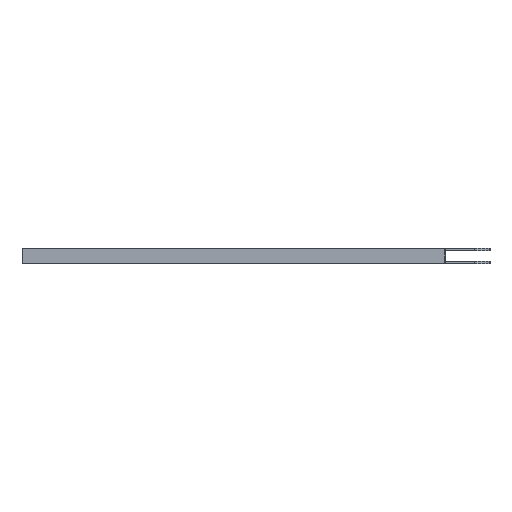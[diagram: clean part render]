
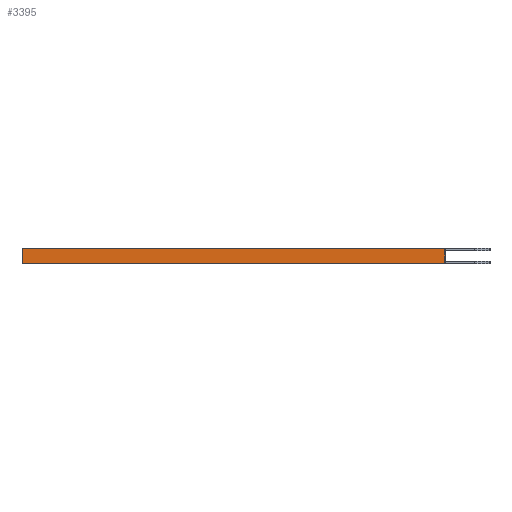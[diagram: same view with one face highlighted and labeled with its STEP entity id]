
A CAD part, left-side view. The second image highlights one B-rep face of the part: STEP entity #3395.
In plain terms, the highlighted planar face has unit normal (-1, 0, 0).
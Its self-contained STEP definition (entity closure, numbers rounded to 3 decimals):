
#149 = VECTOR ( 'NONE', #1019, 1000. ) ;
#182 = CARTESIAN_POINT ( 'NONE',  ( 0., 0., -30. ) ) ;
#535 = LINE ( 'NONE', #7307, #149 ) ;
#666 = CARTESIAN_POINT ( 'NONE',  ( 0., 1600., -30. ) ) ;
#749 = LINE ( 'NONE', #5143, #4403 ) ;
#905 = DIRECTION ( 'NONE',  ( 0., -1., 0. ) ) ;
#906 = ORIENTED_EDGE ( 'NONE', *, *, #3557, .T. ) ;
#1019 = DIRECTION ( 'NONE',  ( 0., -1., 0. ) ) ;
#1088 = VECTOR ( 'NONE', #7213, 1000. ) ;
#1278 = DIRECTION ( 'NONE',  ( 0., 0., 1. ) ) ;
#1549 = EDGE_LOOP ( 'NONE', ( #1573, #6199, #3676, #906 ) ) ;
#1573 = ORIENTED_EDGE ( 'NONE', *, *, #3344, .F. ) ;
#1642 = CARTESIAN_POINT ( 'NONE',  ( 0., 0., 30. ) ) ;
#2418 = CARTESIAN_POINT ( 'NONE',  ( 0., 0., -30. ) ) ;
#3344 = EDGE_CURVE ( 'NONE', #4494, #6676, #535, .T. ) ;
#3395 = ADVANCED_FACE ( 'NONE', ( #5797 ), #5163, .T. ) ;
#3557 = EDGE_CURVE ( 'NONE', #4826, #6676, #6004, .T. ) ;
#3676 = ORIENTED_EDGE ( 'NONE', *, *, #4533, .T. ) ;
#4113 = DIRECTION ( 'NONE',  ( 0., 0., 1. ) ) ;
#4252 = CARTESIAN_POINT ( 'NONE',  ( 0., 1600., 30. ) ) ;
#4346 = EDGE_CURVE ( 'NONE', #5987, #4494, #749, .T. ) ;
#4403 = VECTOR ( 'NONE', #4113, 1000. ) ;
#4494 = VERTEX_POINT ( 'NONE', #4252 ) ;
#4533 = EDGE_CURVE ( 'NONE', #5987, #4826, #4891, .T. ) ;
#4741 = DIRECTION ( 'NONE',  ( -1., 0., 0. ) ) ;
#4826 = VERTEX_POINT ( 'NONE', #2418 ) ;
#4891 = LINE ( 'NONE', #7189, #6070 ) ;
#4961 = AXIS2_PLACEMENT_3D ( 'NONE', #6425, #4741, #1278 ) ;
#5143 = CARTESIAN_POINT ( 'NONE',  ( 0., 1600., -30. ) ) ;
#5163 = PLANE ( 'NONE',  #4961 ) ;
#5797 = FACE_OUTER_BOUND ( 'NONE', #1549, .T. ) ;
#5987 = VERTEX_POINT ( 'NONE', #666 ) ;
#6004 = LINE ( 'NONE', #182, #1088 ) ;
#6070 = VECTOR ( 'NONE', #905, 1000. ) ;
#6199 = ORIENTED_EDGE ( 'NONE', *, *, #4346, .F. ) ;
#6425 = CARTESIAN_POINT ( 'NONE',  ( 0., 0., -30. ) ) ;
#6676 = VERTEX_POINT ( 'NONE', #1642 ) ;
#7189 = CARTESIAN_POINT ( 'NONE',  ( 0., 0., -30. ) ) ;
#7213 = DIRECTION ( 'NONE',  ( 0., 0., 1. ) ) ;
#7307 = CARTESIAN_POINT ( 'NONE',  ( 0., 0., 30. ) ) ;
